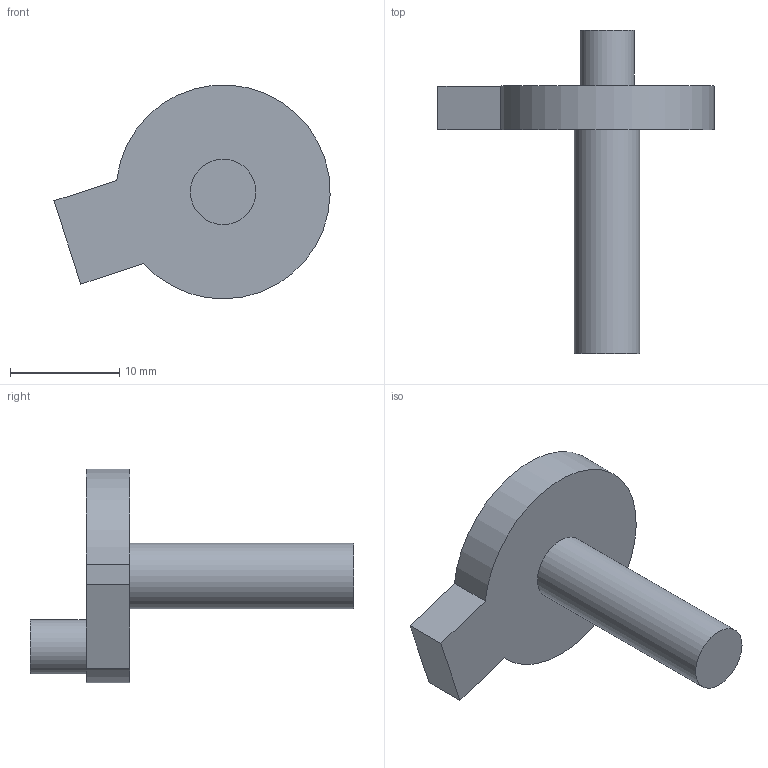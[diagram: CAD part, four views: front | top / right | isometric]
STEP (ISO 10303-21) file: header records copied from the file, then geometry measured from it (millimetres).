
FILE_DESCRIPTION(('Open CASCADE Model'),'2;1');
FILE_NAME('Open CASCADE Shape Model','2026-10-17T22:15:36',('Author'),( 'Open CASCADE'),'Open CASCADE STEP processor 7.9','Open CASCADE 7.9' ,'Unknown');
FILE_SCHEMA(('AUTOMOTIVE_DESIGN { 1 0 10303 214 1 1 1 1 }'));
Length unit declared in the file: millimetre
Products named in the file (1): Open CASCADE STEP translator 7.9 15
Bounding box: 25.3 x 29.6 x 19.58 mm (x, y, z)
Volume: 2060.4 mm3; surface area: 1450.8 mm2
Topology: 1 solids, 1 shells, 10 faces, 18 edges, 12 vertices
Faces by surface type: plane 7, cylinder 3
Full cylindrical faces by diameter (mm): 4.96 x1, 6 x1
Entity records: 497 total; most frequent: CARTESIAN_POINT 99, DIRECTION 75, LINE 38, VECTOR 38, ORIENTED_EDGE 36, PCURVE 36, DEFINITIONAL_REPRESENTATION 36, EDGE_CURVE 18
